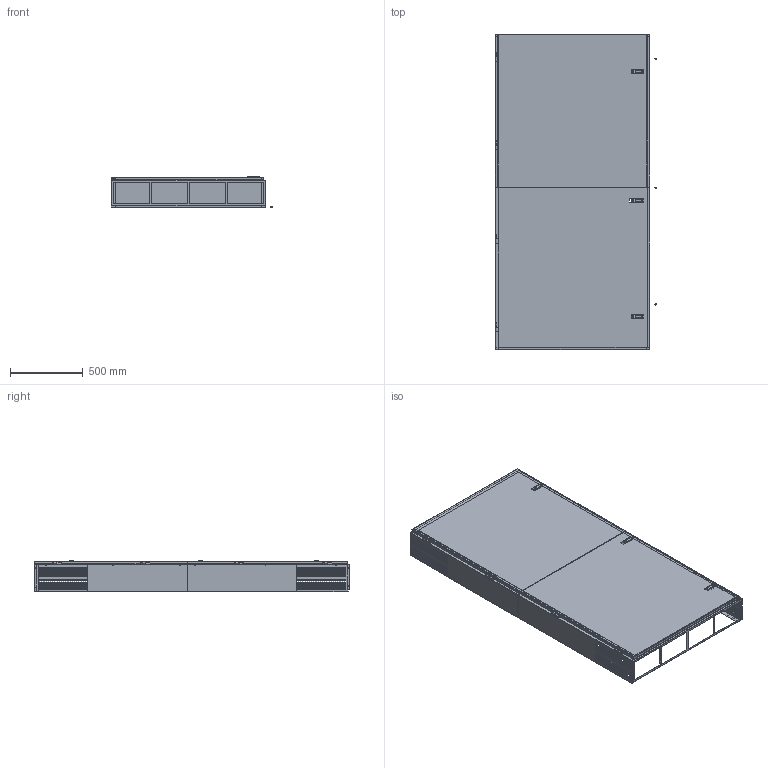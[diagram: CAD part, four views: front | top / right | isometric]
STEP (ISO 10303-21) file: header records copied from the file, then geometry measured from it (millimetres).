
FILE_DESCRIPTION (( 'STEP AP214' ), '1' );
FILE_NAME ('QRS3.STEP', '2016-07-28T13:44:13', ( 'BMC' ), ( 'Bard Manufacturing Co., Inc.' ), 'SwSTEP 2.0', 'SolidWorks 2016', '' );
FILE_SCHEMA (( 'AUTOMOTIVE_DESIGN' ));
Length unit declared in the file: inch
Products named in the file (33): 152-471; 126-337; 500-588; 553-472; 100-588; 5021-1442_uncompressed; 501-587; 152-472; 100-587; 506-238; 500-586; 5021-1101_uncompressed; 5021-1493_uncompressed; 106-238; 100-586; 553-471; 500-585; 1171-048, non locking door latch; 1012-048; NUT; 5021-1492_uncompressed; 1171-048f; 5400-005, male hinge; 1171-048e; 100-585; 1171-048d; 1171-048c; QRS3; 1171-048b; 1171-048a; 1012-150; 5400-005 female hinge; 5021-1441_uncompressed
Assembly tree (56 placements, depth 4):
  QRS3
    500-585
      100-585
      5400-005, male hinge  x2
      5021-1492_uncompressed
      1012-048  x4
    500-586
      100-586
      5400-005, male hinge  x2
      5021-1493_uncompressed
      1012-048  x4
    501-587
      100-587
      5021-1492_uncompressed
    500-588
      100-588
      5021-1493_uncompressed
    553-471
      152-471
      5021-1441_uncompressed
      5400-005 female hinge  x2
      1012-150  x4
      1171-048, non locking door latch
        1171-048a
        1171-048b
        1171-048c
        1171-048d
        1171-048e
        1171-048f
        NUT
    506-238
      106-238
      5021-1101_uncompressed
    553-472
      152-472
      5400-005 female hinge  x2
      1171-048, non locking door latch  x2
        1171-048a
        1171-048b
        1171-048c
        1171-048d
        1171-048e
        1171-048f
        NUT
      1012-150  x4
      5021-1442_uncompressed
    126-337
Bounding box: 1110.24 x 2171.71 x 217.65 mm (x, y, z)
Surface area: 13847824.2 mm2 (no closed solid volume)
Topology: 0 solids, 60 shells, 4366 faces, 10611 edges, 6421 vertices
Faces by surface type: cone 2090, plane 1827, cylinder 400, bspline 32, sphere 11, torus 6
Entity records: 71940 total; most frequent: CARTESIAN_POINT 14508, ORIENTED_EDGE 11600, DIRECTION 11334, EDGE_CURVE 5800, LINE 4592, VECTOR 4592, VERTEX_POINT 3641, AXIS2_PLACEMENT_3D 3371
